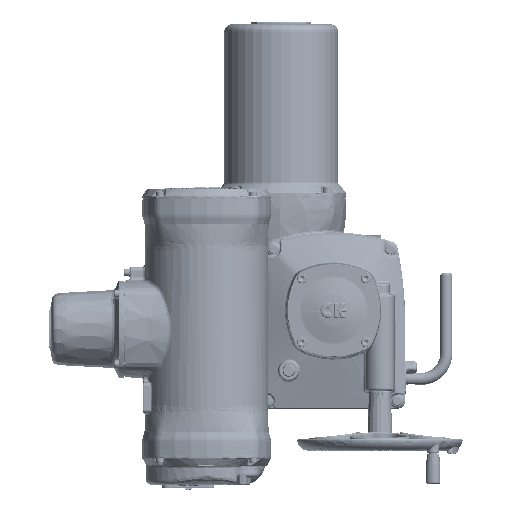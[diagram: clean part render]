
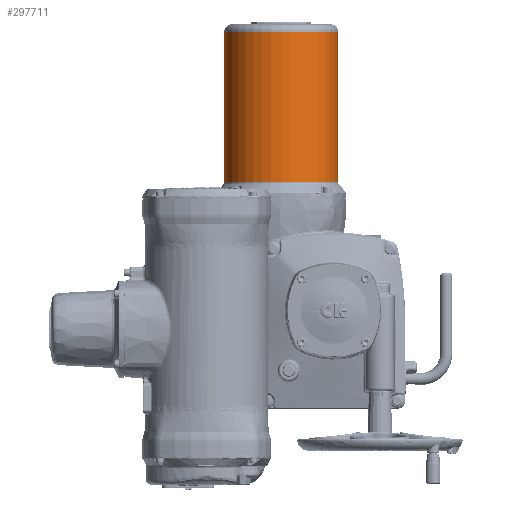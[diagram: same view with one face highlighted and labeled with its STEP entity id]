
A CAD part, top view. The second image highlights one B-rep face of the part: STEP entity #297711.
In plain terms, the highlighted cylindrical face has radius 75.5 mm (diameter 151 mm), a full revolution.
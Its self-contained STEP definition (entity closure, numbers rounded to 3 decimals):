
#7804=CYLINDRICAL_SURFACE('',#312100,75.5);
#13730=B_SPLINE_CURVE_WITH_KNOTS('',3,(#442913,#442914,#442915,#442916,
#442917,#442918,#442919,#442920,#442921,#442922,#442923,#442924,#442925,
#442926,#442927,#442928,#442929,#442930,#442931,#442932,#442933,#442934,
#442935,#442936,#442937,#442938,#442939,#442940,#442941,#442942,#442943,
#442944,#442945,#442946,#442947),.UNSPECIFIED.,.T.,.F.,(1,1,1,1,1,1,1,1,
1,1,1,1,1,1,1,1,1,1,1,1,1,1,1,1,1,1,1,1,1,1,1,1,1,1,1,1,1,1,1),(-0.095,
-0.064,-0.033,0.,0.03,0.061,0.092,
0.123,0.155,0.186,0.217,0.248,
0.28,0.311,0.342,0.373,
0.405,0.436,0.467,0.498,
0.53,0.561,0.592,0.623,
0.655,0.686,0.717,0.748,
0.78,0.811,0.842,0.873,
0.905,0.936,0.967,1.,1.03,1.061,
1.092),.UNSPECIFIED.);
#60624=ORIENTED_EDGE('',*,*,#116171,.T.);
#60625=ORIENTED_EDGE('',*,*,#116169,.T.);
#60626=ORIENTED_EDGE('',*,*,#116172,.T.);
#116169=EDGE_CURVE('',#144935,#144935,#13730,.T.);
#116171=EDGE_CURVE('',#144937,#144937,#161527,.T.);
#116172=EDGE_CURVE('',#144938,#144938,#161528,.T.);
#144935=VERTEX_POINT('',#442948);
#144937=VERTEX_POINT('',#442954);
#144938=VERTEX_POINT('',#442956);
#161527=CIRCLE('',#312101,75.5);
#161528=CIRCLE('',#312102,75.5);
#169341=EDGE_LOOP('',(#60624));
#169342=EDGE_LOOP('',(#60625));
#169343=EDGE_LOOP('',(#60626));
#184212=FACE_BOUND('',#169341,.T.);
#184213=FACE_BOUND('',#169342,.T.);
#184214=FACE_BOUND('',#169343,.T.);
#297711=ADVANCED_FACE('',(#184212,#184213,#184214),#7804,.T.);
#312100=AXIS2_PLACEMENT_3D('',#442952,#335653,#335654);
#312101=AXIS2_PLACEMENT_3D('',#442953,#335655,#335656);
#312102=AXIS2_PLACEMENT_3D('',#442955,#335657,#335658);
#335653=DIRECTION('',(0.,-1.,0.));
#335654=DIRECTION('',(-1.,0.,0.));
#335655=DIRECTION('',(0.,1.,0.));
#335656=DIRECTION('',(1.,0.,0.));
#335657=DIRECTION('',(0.,-1.,0.));
#335658=DIRECTION('',(-1.,0.,0.));
#442913=CARTESIAN_POINT('',(16.006,-100.019,73.786));
#442914=CARTESIAN_POINT('',(16.695,-103.373,73.631));
#442915=CARTESIAN_POINT('',(16.762,-106.799,73.616));
#442916=CARTESIAN_POINT('',(16.248,-110.093,73.732));
#442917=CARTESIAN_POINT('',(15.12,-113.3,73.975));
#442918=CARTESIAN_POINT('',(13.426,-116.253,74.305));
#442919=CARTESIAN_POINT('',(11.226,-118.801,74.675));
#442920=CARTESIAN_POINT('',(8.53,-120.897,75.035));
#442921=CARTESIAN_POINT('',(5.504,-122.384,75.322));
#442922=CARTESIAN_POINT('',(2.184,-123.219,75.494));
#442923=CARTESIAN_POINT('',(-1.215,-123.321,75.516));
#442924=CARTESIAN_POINT('',(-4.563,-122.7,75.386));
#442925=CARTESIAN_POINT('',(-7.714,-121.376,75.125));
#442926=CARTESIAN_POINT('',(-10.492,-119.461,74.783));
#442927=CARTESIAN_POINT('',(-12.854,-117.015,74.408));
#442928=CARTESIAN_POINT('',(-14.698,-114.175,74.061));
#442929=CARTESIAN_POINT('',(-15.985,-111.024,73.791));
#442930=CARTESIAN_POINT('',(-16.688,-107.68,73.633));
#442931=CARTESIAN_POINT('',(-16.773,-104.276,73.613));
#442932=CARTESIAN_POINT('',(-16.249,-100.912,73.732));
#442933=CARTESIAN_POINT('',(-15.126,-97.707,73.974));
#442934=CARTESIAN_POINT('',(-13.438,-94.763,74.303));
#442935=CARTESIAN_POINT('',(-11.224,-92.201,74.675));
#442936=CARTESIAN_POINT('',(-8.551,-90.115,75.033));
#442937=CARTESIAN_POINT('',(-5.498,-88.613,75.322));
#442938=CARTESIAN_POINT('',(-2.189,-87.783,75.493));
#442939=CARTESIAN_POINT('',(1.203,-87.675,75.516));
#442940=CARTESIAN_POINT('',(4.576,-88.305,75.385));
#442941=CARTESIAN_POINT('',(7.692,-89.612,75.127));
#442942=CARTESIAN_POINT('',(10.498,-91.544,74.782));
#442943=CARTESIAN_POINT('',(12.848,-93.978,74.409));
#442944=CARTESIAN_POINT('',(14.694,-96.818,74.062));
#442945=CARTESIAN_POINT('',(16.006,-100.019,73.786));
#442946=CARTESIAN_POINT('',(16.695,-103.373,73.631));
#442947=CARTESIAN_POINT('',(16.762,-106.799,73.616));
#442948=CARTESIAN_POINT('',(16.604,-103.502,73.652));
#442952=CARTESIAN_POINT('',(0.,54.,0.));
#442953=CARTESIAN_POINT('',(0.,-213.5,0.));
#442954=CARTESIAN_POINT('',(75.5,-213.5,0.));
#442955=CARTESIAN_POINT('',(0.,-14.146,0.));
#442956=CARTESIAN_POINT('',(-75.5,-14.146,0.));
